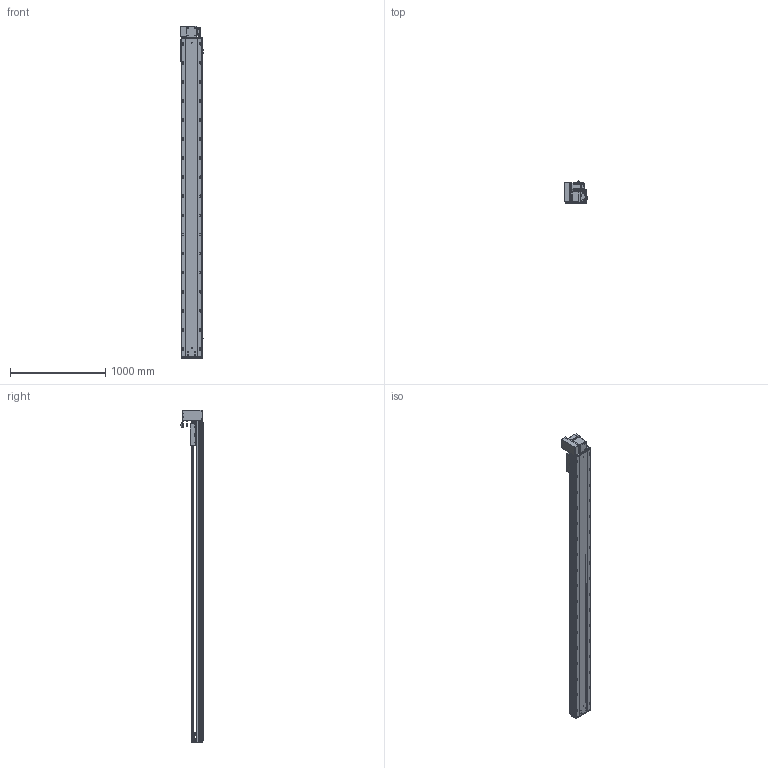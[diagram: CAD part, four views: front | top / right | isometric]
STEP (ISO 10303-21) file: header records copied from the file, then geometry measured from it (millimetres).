
FILE_DESCRIPTION (( 'STEP AP203' ), '1' );
FILE_NAME ('RY220-T-300-UL.SLDASM_3000.step', '2022-07-25T08:36:23', ( '' ), ( '' ), 'SwSTEP 2.0', 'SolidWorks 2016', '' );
FILE_SCHEMA (( 'CONFIG_CONTROL_DESIGN' ));
Length unit declared in the file: millimetre
Products named in the file (14): RY220翋肮祭謫釱; RY220-T-300-奻裔啣_3000; RY220圉猾敕々湍臏賑輸; RY220-T-湍謫欶(鍼踢); RY220-T-蛌殏萇儂假蚾啣(750W); RY220-俋离672覜茼んえ; RY220-同步轮副支撑座6304×2; RY220-T菁釱-300_3000; 滅袉蝶18-15; 110A-T-肮祭謫釱傷裔; 覜茼ん672; RY220翋肮祭謫裔啣; RY220-T-300-UL.SLDASM_3000; 怢湛750W_ECMA-CX0807ES
Assembly tree (18 placements, depth 2):
  RY220-T-300-UL.SLDASM_3000
    RY220-T菁釱-300_3000
    RY220翋肮祭謫釱
    覜茼ん672  x3
    RY220圉猾敕々湍臏賑輸
    RY220-T-300-奻裔啣_3000
    RY220-俋离672覜茼んえ
    滅袉蝶18-15  x3
    RY220翋肮祭謫裔啣  x2
    110A-T-肮祭謫釱傷裔
    怢湛750W_ECMA-CX0807ES
    RY220-T-湍謫欶(鍼踢)
    RY220-T-蛌殏萇儂假蚾啣(750W)
    RY220-同步轮副支撑座6304×2
Bounding box: 239.7 x 231.74 x 3480.5 mm (x, y, z)
Volume: 25205247.5 mm3; surface area: 7798765.6 mm2
Topology: 19 solids, 19 shells, 3028 faces, 8375 edges, 5240 vertices
Faces by surface type: cylinder 1496, plane 1069, cone 381, bspline 56, sphere 16, torus 10
Entity records: 100931 total; most frequent: CARTESIAN_POINT 28435, ORIENTED_EDGE 14970, DIRECTION 14476, EDGE_CURVE 7485, AXIS2_PLACEMENT_3D 5230, VERTEX_POINT 4864, VECTOR 4016, LINE 4016
